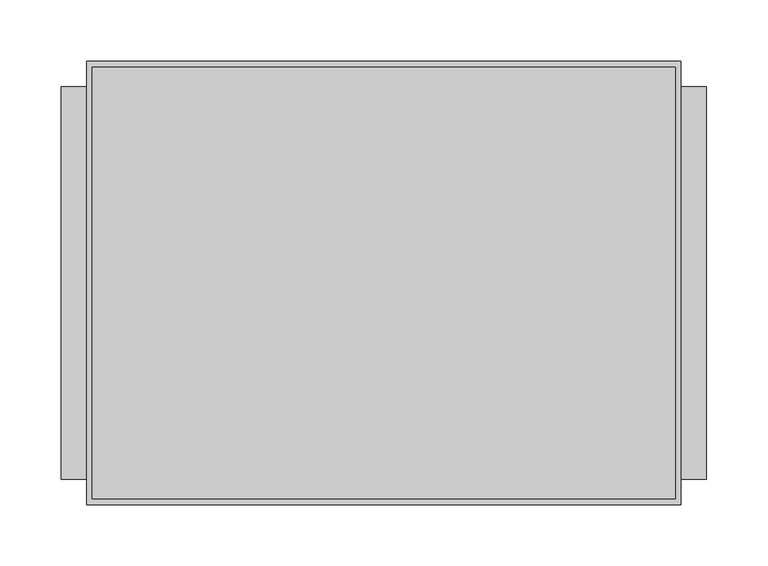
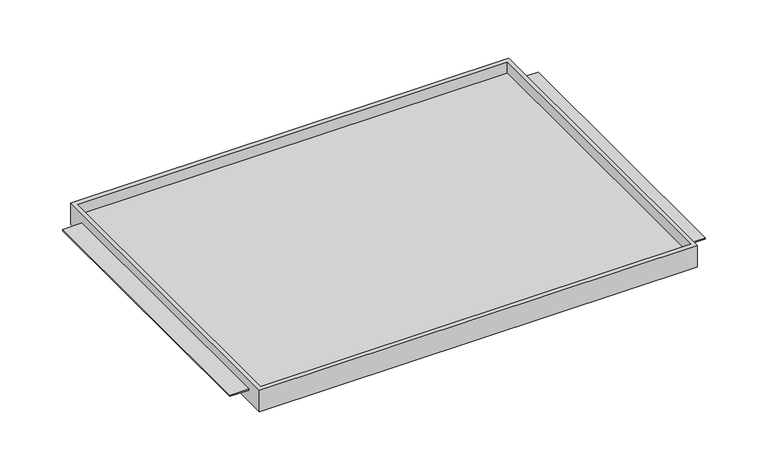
"""IFC4 building model written with IfcOpenShell, lengths in millimetres: furniture geometry."""

from ifc_helpers import new_model, si_unit, origin, place, context, project, spatial, faceted_brep, source, transform, mapped, element, save


def furniture_2a79b59b(model_context):
    return source(origin(), model_context, "Body", "Brep", [
        faceted_brep([(-242.7689646, -180.975, 1435.0111), (242.7689646, -180.975, 1435.0111), (242.7689646, -180.975, 1460.4111), (-242.7689646, -180.975, 1460.4111), (-242.7689646, 180.975, 1435.0111), (-242.7689646, 180.975, 1460.4111), (242.7689646, 180.975, 1460.4111), (242.7689646, 180.975, 1435.0111), (242.7689646, -160.3374879, 1449.3113), (242.7689646, 160.3374879, 1449.3113), (242.7689646, 160.3374879, 1447.7111), (242.7689646, -160.3374879, 1447.7111), (238.125, -176.2125, 1460.4111), (-238.125, -176.2125, 1460.4111), (-238.125, 175.91278, 1460.4111), (238.125, 175.91278, 1460.4111), (-242.7689646, 160.3374879, 1449.3113), (-242.7689646, -160.3374879, 1449.3113), (-242.7689646, -160.3374879, 1447.7111), (-242.7689646, 160.3374879, 1447.7111), (-238.125, -176.2125, 1447.7111), (238.125, -176.2125, 1447.7111), (238.125, 175.91278, 1447.7111), (-238.125, 175.91278, 1447.7111), (-263.525, 160.3374879, 1449.3113), (-263.525, -160.3374879, 1449.3113), (263.525, -160.3374879, 1449.3113), (263.525, 160.3374879, 1449.3113), (-263.525, -160.3374879, 1447.7111), (-263.525, 160.3374879, 1447.7111), (263.525, -160.3374879, 1447.7111), (263.525, 160.3374879, 1447.7111)], [[[0, 1, 2, 3]], [[4, 5, 6, 7]], [[1, 0, 4, 7]], [[2, 1, 7, 6], [8, 9, 10, 11]], [[3, 2, 6, 5], [12, 13, 14, 15]], [[0, 3, 5, 4], [16, 17, 18, 19]], [[20, 21, 22, 23]], [[21, 20, 13, 12]], [[22, 21, 12, 15]], [[23, 22, 15, 14]], [[20, 23, 14, 13]], [[16, 24, 25, 17]], [[26, 27, 9, 8]], [[18, 28, 29, 19]], [[30, 11, 10, 31]], [[24, 16, 19, 29]], [[25, 24, 29, 28]], [[17, 25, 28, 18]], [[27, 26, 30, 31]], [[9, 27, 31, 10]], [[26, 8, 11, 30]]]),
    ])


if __name__ == "__main__":
    model = new_model("IFC4")
    model_context = context("Model", 3, world=origin())
    ifc_project = project(units=[si_unit("LENGTHUNIT", "METRE", prefix="MILLI")], contexts=[model_context])
    site = spatial("IfcSite", under=ifc_project)
    building = spatial("IfcBuilding", under=site)
    placement = place(None, origin())
    furniture_shape = furniture_2a79b59b(model_context)
    element("IfcFurniture", 1, ObjectType="HermanMiller_CoStruc_CO203_CTrayShelf : 14\"D x 20\"W", at=placement, inside=building, context=model_context, shape_type="MappedRepresentation", body=[
        mapped(furniture_shape, transform((0.0, 0.0, 0.0), x_axis=(1.0, 0.0, 0.0), y_axis=(0.0, 1.0, 0.0), z_axis=(0.0, 0.0, 1.0))),
    ])
    save(model, "model.ifc")
